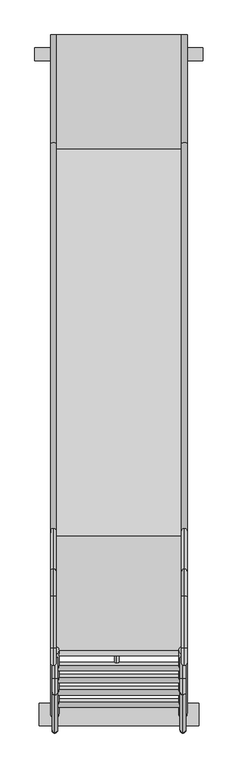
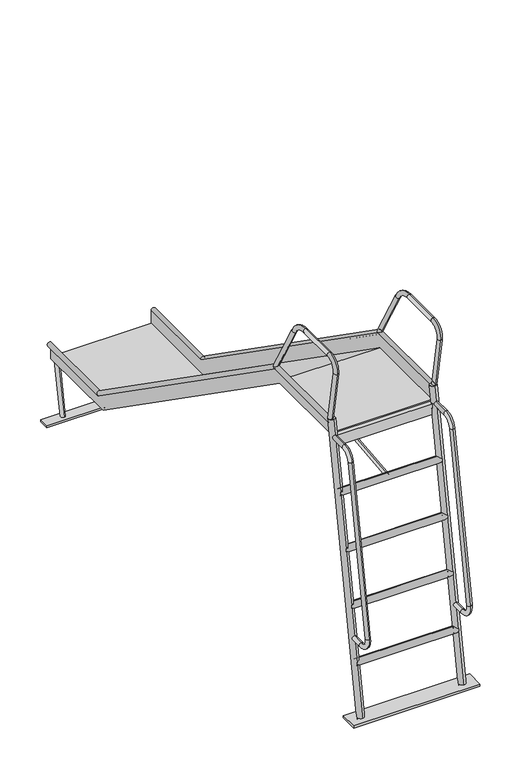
"""IFC4 building model written with IfcOpenShell, lengths in millimetres: furniture geometry, Escorregador_-_Slide_18603 : Escorregador_-_Slide_18603."""

from ifc_helpers import new_model, si_unit, point, frame, frame_2d, origin, origin_with_axes, place, context, project, spatial, polyline, circle_curve, ellipse_curve, trimmed, segment, composite_curve, outline, extrude, source, transform, mapped, element, save
from ifc_brep_helpers import plane_surface, cylinder_surface, revolved_surface, advanced_brep


def furniture_a3808f5e(model_context):
    return source(origin(), model_context, "Body", "SolidModel", [
        extrude(outline(composite_curve([segment(trimmed(circle_curve(frame_2d((-7.5, 0.0)), 7.5), [point((-7.5, -7.5))], [point((-7.5, 7.5))], False, "CARTESIAN"), True, "CONTINUOUS"), segment(trimmed(circle_curve(frame_2d((-7.5, 0.0)), 7.5), [point((-7.5, 7.5))], [point((-7.5, -7.5))], False, "CARTESIAN"), True, "CONTINUOUS")], self_intersect=False)), frame((0.0, -997.5703978, 960.0), z_axis=(0.0, 0.9945218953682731, 0.10452846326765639), x_axis=(1.0, 0.0, 0.0)), (0.0, 0.0, 1.0), 692.6117788),
        extrude(outline(composite_curve([segment(trimmed(circle_curve(frame_2d((210.0, 0.0)), 10.0), [point((210.0, 10.0000001))], [point((210.0, -10.0))], False, "CARTESIAN"), True, "CONTINUOUS"), segment(trimmed(circle_curve(frame_2d((210.0, 0.0)), 10.0), [point((210.0, -10.0))], [point((210.0, 10.0000001))], False, "CARTESIAN"), True, "CONTINUOUS")], self_intersect=False)), frame((0.0, 1148.1648069, 10.0), z_axis=(0.0, 0.19080899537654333, 0.9816271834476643), x_axis=(-1.0, 0.0, 0.0)), (0.0, 0.0, 1.0), 239.3984233),
        extrude(outline(composite_curve([segment(trimmed(circle_curve(frame_2d((210.0, 0.0)), 10.0), [point((210.0, -10.0000001))], [point((210.0, 10.0))], False, "CARTESIAN"), True, "CONTINUOUS"), segment(trimmed(circle_curve(frame_2d((210.0, 0.0)), 10.0), [point((210.0, 10.0))], [point((210.0, -10.0000001))], False, "CARTESIAN"), True, "CONTINUOUS")], self_intersect=False)), frame((0.0, 1148.1648069, 10.0), z_axis=(0.0, 0.19080899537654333, 0.9816271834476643), x_axis=(1.0, 0.0, 0.0)), (0.0, 0.0, 1.0), 239.3984233),
        extrude(outline(polyline([(295.0, 1124.5783164), (-295.0, 1124.5783164), (-295.0, 1171.7512974), (295.0, 1171.7512974), (295.0, 1124.5783164)])), origin_with_axes(), (0.0, 0.0, 1.0), 10.0),
        advanced_brep(
        [(-230.0, -950.9590826, 1272.2635182), (-230.0, -931.2629275, 1275.7364818), (-230.0, -992.7062439, 1509.0234352), (-230.0, -973.0100888, 1512.4963988), (-230.0, -933.6177787, 1579.4423259), (-230.0, -933.6177787, 1559.4423259), (-230.0, -751.6131369, 1579.4423259), (-230.0, -751.6131369, 1559.4423259), (-230.0, -655.8018513, 1523.4811783), (-230.0, -673.2220851, 1513.6559324), (-230.0, -512.2217657, 1268.9126229), (-230.0, -529.6419994, 1259.0873771)],
        [
            (0, 1, circle_curve(frame((-230.0, -941.1110051, 1274.0), z_axis=(0.0, 0.1736481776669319, -0.9848077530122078), x_axis=(0.0, 0.9848077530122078, 0.1736481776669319)), 10.0)),
            (1, 0, circle_curve(frame((-230.0, -941.1110051, 1274.0), z_axis=(0.0, 0.1736481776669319, -0.9848077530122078), x_axis=(0.0, 0.9848077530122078, 0.1736481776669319)), 10.0)),
            (0, 2),
            (2, 3, circle_curve(frame((-230.0, -982.8581664, 1510.759917), z_axis=(0.0, 0.1736481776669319, -0.9848077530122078), x_axis=(0.0, 0.9848077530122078, 0.1736481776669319)), 10.0)),
            (3, 1),
            (3, 2, circle_curve(frame((-230.0, -982.8581664, 1510.759917), z_axis=(0.0, 0.1736481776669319, -0.9848077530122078), x_axis=(0.0, 0.9848077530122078, 0.1736481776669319)), 10.0)),
            (4, 5, circle_curve(frame((-230.0, -933.6177787, 1569.4423259), z_axis=(0.0, -0.9999999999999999, 0.0), x_axis=(0.0, 0.0, -0.9999999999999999)), 10.0)),
            (5, 3, circle_curve(frame((-230.0, -933.6177787, 1519.4423259), z_axis=(1.0, 0.0, 0.0), x_axis=(0.0, -0.9848077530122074, -0.17364817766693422)), 40.0)),
            (2, 4, circle_curve(frame((-230.0, -933.6177787, 1519.4423259), z_axis=(-1.0, 0.0, 0.0), x_axis=(0.0, -0.9848077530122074, -0.17364817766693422)), 60.0)),
            (5, 4, circle_curve(frame((-230.0, -933.6177787, 1569.4423259), z_axis=(0.0, -1.0, 0.0), x_axis=(0.0, 0.0, -1.0)), 10.0)),
            (4, 6),
            (6, 7, circle_curve(frame((-230.0, -751.6131369, 1569.4423259), z_axis=(0.0, -1.0, 0.0), x_axis=(0.0, 0.0, -1.0)), 10.0)),
            (7, 5),
            (7, 6, circle_curve(frame((-230.0, -751.6131369, 1569.4423259), z_axis=(0.0, -1.0, 0.0), x_axis=(0.0, 0.0, -1.0)), 10.0)),
            (8, 9, circle_curve(frame((-230.0, -664.5119682, 1518.5685553), z_axis=(0.0, -0.49126229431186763, 0.8710116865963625), x_axis=(0.0, -0.8710116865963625, -0.49126229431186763)), 10.0)),
            (9, 7, circle_curve(frame((-230.0, -751.6131369, 1469.4423259), z_axis=(1.0, 0.0, 0.0), x_axis=(0.0, 0.0, 1.0)), 90.0)),
            (6, 8, circle_curve(frame((-230.0, -751.6131369, 1469.4423259), z_axis=(-1.0, 0.0, 0.0), x_axis=(0.0, 0.0, 1.0)), 110.0)),
            (9, 8, circle_curve(frame((-230.0, -664.5119682, 1518.5685553), z_axis=(0.0, -0.49126229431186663, 0.8710116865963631), x_axis=(0.0, -0.8710116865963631, -0.49126229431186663)), 10.0)),
            (10, 11, circle_curve(frame((-230.0, -520.9318826, 1264.0), z_axis=(0.0, 0.4912622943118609, -0.8710116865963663), x_axis=(0.0, -0.8710116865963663, -0.4912622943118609)), 10.0)),
            (11, 10, circle_curve(frame((-230.0, -520.9318826, 1264.0), z_axis=(0.0, 0.4912622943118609, -0.8710116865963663), x_axis=(0.0, -0.8710116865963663, -0.4912622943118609)), 10.0)),
            (8, 10),
            (11, 9),
        ],
        [
            plane_surface(frame((0.0, -941.1110051, 1274.0), z_axis=(0.0, 0.1736481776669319, -0.9848077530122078), x_axis=(-1.0, 0.0, 0.0))),
            cylinder_surface(frame((-230.0, -941.1110051, 1274.0), z_axis=(0.0, 0.1736481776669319, -0.9848077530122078), x_axis=(0.0, 0.9848077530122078, 0.1736481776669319)), 10.0),
            revolved_surface(trimmed(ellipse_curve(frame((-230.0, -982.8581664, 1510.759917), z_axis=(0.0, -0.17364817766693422, 0.9848077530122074), x_axis=(0.0, 0.9848077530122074, 0.17364817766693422)), 10.0, 10.0), [point((-230.0, -973.0100888, 1512.4963988))], [point((-230.0, -992.7062439, 1509.0234352))], True, "CARTESIAN"), (0.0, -933.6177787, 1519.4423259), (1.0, 0.0, 0.0)),
            revolved_surface(trimmed(ellipse_curve(frame((-230.0, -982.8581664, 1510.759917), z_axis=(0.0, -0.17364817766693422, 0.9848077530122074), x_axis=(0.0, 0.9848077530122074, 0.17364817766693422)), 10.0, 10.0), [point((-230.0, -992.7062439, 1509.0234352))], [point((-230.0, -973.0100888, 1512.4963988))], True, "CARTESIAN"), (0.0, -933.6177787, 1519.4423259), (1.0, 0.0, 0.0)),
            cylinder_surface(frame((-230.0, -933.6177787, 1569.4423259), z_axis=(0.0, -1.0, 0.0), x_axis=(0.0, 0.0, -1.0)), 10.0),
            revolved_surface(trimmed(ellipse_curve(frame((-230.0, -751.6131369, 1569.4423259), z_axis=(0.0, 1.0, 0.0), x_axis=(0.0, 0.0, -1.0)), 10.0, 10.0), [point((-230.0, -751.6131369, 1559.4423259))], [point((-230.0, -751.6131369, 1579.4423259))], True, "CARTESIAN"), (0.0, -751.6131369, 1469.4423259), (1.0, 0.0, 0.0)),
            revolved_surface(trimmed(ellipse_curve(frame((-230.0, -751.6131369, 1569.4423259), z_axis=(0.0, 1.0, 0.0), x_axis=(0.0, 0.0, -1.0)), 10.0, 10.0), [point((-230.0, -751.6131369, 1579.4423259))], [point((-230.0, -751.6131369, 1559.4423259))], True, "CARTESIAN"), (0.0, -751.6131369, 1469.4423259), (1.0, 0.0, 0.0)),
            plane_surface(frame((0.0, -520.9318826, 1264.0), z_axis=(0.0, 0.49126229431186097, -0.8710116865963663), x_axis=(-1.0, 0.0, 0.0))),
            cylinder_surface(frame((-230.0, -664.5119682, 1518.5685553), z_axis=(0.0, -0.4912622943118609, 0.8710116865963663), x_axis=(0.0, -0.8710116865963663, -0.4912622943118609)), 10.0),
        ],
        [
            (0, [[1, 2]]),
            (1, [[3, 4, 5, -1]]),
            (1, [[-5, 6, -3, -2]]),
            (2, [[7, 8, -4, 9]]),
            (3, [[10, -9, -6, -8]]),
            (4, [[11, 12, 13, -7]]),
            (4, [[-13, 14, -11, -10]]),
            (5, [[15, 16, -12, 17]]),
            (6, [[18, -17, -14, -16]]),
            (7, [[19, 20]]),
            (8, [[21, -20, 22, -15]]),
            (8, [[-22, -19, -21, -18]]),
        ],
    ),
        advanced_brep(
        [(230.0, -950.9590826, 1272.2635182), (230.0, -931.2629275, 1275.7364818), (230.0, -973.0100888, 1512.4963988), (230.0, -992.7062439, 1509.0234352), (230.0, -933.6177787, 1559.4423259), (230.0, -933.6177787, 1579.4423259), (230.0, -751.6131369, 1559.4423259), (230.0, -751.6131369, 1579.4423259), (230.0, -673.2220851, 1513.6559324), (230.0, -655.8018513, 1523.4811783), (230.0, -512.2217657, 1268.9126229), (230.0, -529.6419994, 1259.0873771)],
        [
            (0, 1, circle_curve(frame((230.0, -941.1110051, 1274.0), z_axis=(0.0, 0.1736481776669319, -0.9848077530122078), x_axis=(0.0, 0.9848077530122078, 0.1736481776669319)), 10.0)),
            (1, 0, circle_curve(frame((230.0, -941.1110051, 1274.0), z_axis=(0.0, 0.1736481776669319, -0.9848077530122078), x_axis=(0.0, 0.9848077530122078, 0.1736481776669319)), 10.0)),
            (1, 2),
            (2, 3, circle_curve(frame((230.0, -982.8581664, 1510.759917), z_axis=(0.0, 0.1736481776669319, -0.9848077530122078), x_axis=(0.0, 0.9848077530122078, 0.1736481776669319)), 10.0)),
            (3, 0),
            (3, 2, circle_curve(frame((230.0, -982.8581664, 1510.759917), z_axis=(0.0, 0.1736481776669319, -0.9848077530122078), x_axis=(0.0, 0.9848077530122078, 0.1736481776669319)), 10.0)),
            (4, 5, circle_curve(frame((230.0, -933.6177787, 1569.4423259), z_axis=(0.0, -1.0, 0.0), x_axis=(0.0, 0.0, -1.0)), 10.0)),
            (5, 3, circle_curve(frame((230.0, -933.6177787, 1519.4423259), z_axis=(1.0, 0.0, 0.0), x_axis=(0.0, -0.9848077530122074, -0.17364817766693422)), 60.0)),
            (2, 4, circle_curve(frame((230.0, -933.6177787, 1519.4423259), z_axis=(-1.0, 0.0, 0.0), x_axis=(0.0, -0.9848077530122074, -0.17364817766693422)), 40.0)),
            (5, 4, circle_curve(frame((230.0, -933.6177787, 1569.4423259), z_axis=(0.0, -0.9999999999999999, 0.0), x_axis=(0.0, 0.0, -0.9999999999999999)), 10.0)),
            (4, 6),
            (6, 7, circle_curve(frame((230.0, -751.6131369, 1569.4423259), z_axis=(0.0, -1.0, 0.0), x_axis=(0.0, 0.0, -1.0)), 10.0)),
            (7, 5),
            (7, 6, circle_curve(frame((230.0, -751.6131369, 1569.4423259), z_axis=(0.0, -1.0, 0.0), x_axis=(0.0, 0.0, -1.0)), 10.0)),
            (8, 9, circle_curve(frame((230.0, -664.5119682, 1518.5685553), z_axis=(0.0, -0.49126229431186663, 0.8710116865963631), x_axis=(0.0, -0.8710116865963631, -0.49126229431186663)), 10.0)),
            (9, 7, circle_curve(frame((230.0, -751.6131369, 1469.4423259), z_axis=(1.0, 0.0, 0.0), x_axis=(0.0, 0.0, 1.0)), 110.0)),
            (6, 8, circle_curve(frame((230.0, -751.6131369, 1469.4423259), z_axis=(-1.0, 0.0, 0.0), x_axis=(0.0, 0.0, 1.0)), 90.0)),
            (9, 8, circle_curve(frame((230.0, -664.5119682, 1518.5685553), z_axis=(0.0, -0.49126229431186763, 0.8710116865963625), x_axis=(0.0, -0.8710116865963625, -0.49126229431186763)), 10.0)),
            (10, 11, circle_curve(frame((230.0, -520.9318826, 1264.0), z_axis=(0.0, 0.4912622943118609, -0.8710116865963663), x_axis=(0.0, -0.8710116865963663, -0.4912622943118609)), 10.0)),
            (11, 10, circle_curve(frame((230.0, -520.9318826, 1264.0), z_axis=(0.0, 0.4912622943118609, -0.8710116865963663), x_axis=(0.0, -0.8710116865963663, -0.4912622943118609)), 10.0)),
            (8, 11),
            (10, 9),
        ],
        [
            plane_surface(frame((0.0, -941.1110051, 1274.0), z_axis=(0.0, 0.1736481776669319, -0.9848077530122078), x_axis=(1.0, 0.0, 0.0))),
            cylinder_surface(frame((230.0, -941.1110051, 1274.0), z_axis=(0.0, 0.1736481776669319, -0.9848077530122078), x_axis=(0.0, 0.9848077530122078, 0.1736481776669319)), 10.0),
            revolved_surface(trimmed(ellipse_curve(frame((230.0, -982.8581664, 1510.759917), z_axis=(0.0, -0.17364817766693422, 0.9848077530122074), x_axis=(0.0, 0.9848077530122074, 0.17364817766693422)), 10.0, 10.0), [point((230.0, -992.7062439, 1509.0234352))], [point((230.0, -973.0100888, 1512.4963988))], True, "CARTESIAN"), (0.0, -933.6177787, 1519.4423259), (1.0, 0.0, 0.0)),
            revolved_surface(trimmed(ellipse_curve(frame((230.0, -982.8581664, 1510.759917), z_axis=(0.0, -0.17364817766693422, 0.9848077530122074), x_axis=(0.0, 0.9848077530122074, 0.17364817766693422)), 10.0, 10.0), [point((230.0, -973.0100888, 1512.4963988))], [point((230.0, -992.7062439, 1509.0234352))], True, "CARTESIAN"), (0.0, -933.6177787, 1519.4423259), (1.0, 0.0, 0.0)),
            cylinder_surface(frame((230.0, -933.6177787, 1569.4423259), z_axis=(0.0, -1.0, 0.0), x_axis=(0.0, 0.0, -1.0)), 10.0),
            revolved_surface(trimmed(ellipse_curve(frame((230.0, -751.6131369, 1569.4423259), z_axis=(0.0, 1.0, 0.0), x_axis=(0.0, 0.0, -1.0)), 10.0, 10.0), [point((230.0, -751.6131369, 1579.4423259))], [point((230.0, -751.6131369, 1559.4423259))], True, "CARTESIAN"), (0.0, -751.6131369, 1469.4423259), (1.0, 0.0, 0.0)),
            revolved_surface(trimmed(ellipse_curve(frame((230.0, -751.6131369, 1569.4423259), z_axis=(0.0, 1.0, 0.0), x_axis=(0.0, 0.0, -1.0)), 10.0, 10.0), [point((230.0, -751.6131369, 1559.4423259))], [point((230.0, -751.6131369, 1579.4423259))], True, "CARTESIAN"), (0.0, -751.6131369, 1469.4423259), (1.0, 0.0, 0.0)),
            plane_surface(frame((0.0, -520.9318826, 1264.0), z_axis=(0.0, 0.49126229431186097, -0.8710116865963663), x_axis=(1.0, 0.0, 0.0))),
            cylinder_surface(frame((230.0, -664.5119682, 1518.5685553), z_axis=(0.0, -0.4912622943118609, 0.8710116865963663), x_axis=(0.0, -0.8710116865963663, -0.4912622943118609)), 10.0),
        ],
        [
            (0, [[1, 2]]),
            (1, [[3, 4, 5, -2]]),
            (1, [[-5, 6, -3, -1]]),
            (2, [[7, 8, -4, 9]]),
            (3, [[10, -9, -6, -8]]),
            (4, [[11, 12, 13, -7]]),
            (4, [[-13, 14, -11, -10]]),
            (5, [[15, 16, -12, 17]]),
            (6, [[18, -17, -14, -16]]),
            (7, [[19, 20]]),
            (8, [[21, -19, 22, -15]]),
            (8, [[-22, -20, -21, -18]]),
        ],
    ),
        extrude(outline(composite_curve([segment(trimmed(circle_curve(frame_2d((-997.4504963, 960.6799953)), 15.0), [point((-994.8457737, 975.4521116))], [point((-1000.055219, 945.907879))], False, "CARTESIAN"), True, "CONTINUOUS"), segment(trimmed(circle_curve(frame_2d((-997.4504963, 960.6799953)), 15.0), [point((-1000.055219, 945.907879))], [point((-994.8457737, 975.4521116))], False, "CARTESIAN"), True, "CONTINUOUS")], self_intersect=False)), frame((-225.0, 0.0, 0.0), z_axis=(1.0, 0.0, 0.0), x_axis=(0.0, 1.0, 0.0)), (0.0, 0.0, 1.0), 450.0),
        extrude(outline(composite_curve([segment(trimmed(circle_curve(frame_2d((-1039.7689717, 720.6799953)), 15.0), [point((-1037.164249, 735.4521116))], [point((-1042.3736944, 705.907879))], False, "CARTESIAN"), True, "CONTINUOUS"), segment(trimmed(circle_curve(frame_2d((-1039.7689717, 720.6799953)), 15.0), [point((-1042.3736944, 705.907879))], [point((-1037.164249, 735.4521116))], False, "CARTESIAN"), True, "CONTINUOUS")], self_intersect=False)), frame((-225.0, 0.0, 0.0), z_axis=(1.0, 0.0, 0.0), x_axis=(0.0, 1.0, 0.0)), (0.0, 0.0, 1.0), 450.0),
        extrude(outline(composite_curve([segment(trimmed(circle_curve(frame_2d((-1082.0874471, 480.6799953)), 15.0), [point((-1079.4827244, 495.4521116))], [point((-1084.6921697, 465.907879))], False, "CARTESIAN"), True, "CONTINUOUS"), segment(trimmed(circle_curve(frame_2d((-1082.0874471, 480.6799953)), 15.0), [point((-1084.6921697, 465.907879))], [point((-1079.4827244, 495.4521116))], False, "CARTESIAN"), True, "CONTINUOUS")], self_intersect=False)), frame((-225.0, 0.0, 0.0), z_axis=(1.0, 0.0, 0.0), x_axis=(0.0, 1.0, 0.0)), (0.0, 0.0, 1.0), 450.0),
        extrude(outline(composite_curve([segment(trimmed(circle_curve(frame_2d((-1124.4059224, 240.6799953)), 15.0), [point((-1121.8011998, 255.4521116))], [point((-1127.0106451, 225.907879))], False, "CARTESIAN"), True, "CONTINUOUS"), segment(trimmed(circle_curve(frame_2d((-1124.4059224, 240.6799953)), 15.0), [point((-1127.0106451, 225.907879))], [point((-1121.8011998, 255.4521116))], False, "CARTESIAN"), True, "CONTINUOUS")], self_intersect=False)), frame((-225.0, 0.0, 0.0), z_axis=(1.0, 0.0, 0.0), x_axis=(0.0, 1.0, 0.0)), (0.0, 0.0, 1.0), 450.0),
        advanced_brep(
        [(-225.0, -960.0508378, 1190.0), (-225.0, -960.0508378, 1210.0), (-225.0, -1038.1017893, 1190.0), (-225.0, -1038.1017893, 1210.0), (-225.0, -1077.4931316, 1156.9514134), (-225.0, -1097.1888028, 1160.42712), (-225.0, -1209.8460728, 406.9514134), (-225.0, -1229.541744, 410.42712), (-225.0, -1170.4547305, 360.0), (-225.0, -1170.4547305, 340.0), (-225.0, -1110.0508378, 360.0), (-225.0, -1110.0508378, 340.0)],
        [
            (0, 1, circle_curve(frame((-225.0, -960.0508378, 1200.0), z_axis=(0.0, 1.0, 0.0), x_axis=(0.0, 0.0, 1.0)), 10.0)),
            (1, 0, circle_curve(frame((-225.0, -960.0508378, 1200.0), z_axis=(0.0, 1.0, 0.0), x_axis=(0.0, 0.0, 1.0)), 10.0)),
            (0, 2),
            (2, 3, circle_curve(frame((-225.0, -1038.1017893, 1200.0), z_axis=(0.0, 1.0, 0.0), x_axis=(0.0, 0.0, 1.0)), 10.0)),
            (3, 1),
            (3, 2, circle_curve(frame((-225.0, -1038.1017893, 1200.0), z_axis=(0.0, 1.0, 0.0), x_axis=(0.0, 0.0, 1.0)), 10.0)),
            (4, 5, circle_curve(frame((-225.0, -1087.3409672, 1158.6892667), z_axis=(0.0, 0.17378533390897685, 0.9847835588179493), x_axis=(0.0, -0.9847835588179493, 0.17378533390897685)), 10.0)),
            (5, 3, circle_curve(frame((-225.0, -1038.1017893, 1150.0), z_axis=(-1.0, 0.0, 0.0), x_axis=(0.0, 0.0, 1.0)), 60.0)),
            (2, 4, circle_curve(frame((-225.0, -1038.1017893, 1150.0), z_axis=(1.0, 0.0, 0.0), x_axis=(0.0, 0.0, 1.0)), 40.0)),
            (5, 4, circle_curve(frame((-225.0, -1087.3409672, 1158.6892667), z_axis=(0.0, 0.1737853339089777, 0.9847835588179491), x_axis=(0.0, -0.9847835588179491, 0.1737853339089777)), 10.0)),
            (4, 6),
            (6, 7, circle_curve(frame((-225.0, -1219.6939084, 408.6892667), z_axis=(0.0, 0.17378533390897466, 0.9847835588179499), x_axis=(0.0, -0.9847835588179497, 0.17378533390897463)), 10.0)),
            (7, 5),
            (7, 6, circle_curve(frame((-225.0, -1219.6939084, 408.6892667), z_axis=(0.0, 0.17378533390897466, 0.9847835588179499), x_axis=(0.0, -0.9847835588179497, 0.17378533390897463)), 10.0)),
            (8, 9, circle_curve(frame((-225.0, -1170.4547305, 350.0), z_axis=(0.0, -1.0, 0.0), x_axis=(0.0, 0.0, -1.0)), 10.0)),
            (9, 7, circle_curve(frame((-225.0, -1170.4547305, 400.0), z_axis=(-1.0, 0.0, 0.0), x_axis=(0.0, -0.9847835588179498, 0.17378533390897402)), 60.0)),
            (6, 8, circle_curve(frame((-225.0, -1170.4547305, 400.0), z_axis=(1.0, 0.0, 0.0), x_axis=(0.0, -0.9847835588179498, 0.17378533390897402)), 40.0)),
            (9, 8, circle_curve(frame((-225.0, -1170.4547305, 350.0), z_axis=(0.0, -1.0, 0.0), x_axis=(0.0, 0.0, -1.0)), 10.0)),
            (10, 11, circle_curve(frame((-225.0, -1110.0508378, 350.0), z_axis=(0.0, 1.0, 0.0), x_axis=(0.0, 0.0, -1.0)), 10.0)),
            (11, 10, circle_curve(frame((-225.0, -1110.0508378, 350.0), z_axis=(0.0, 1.0, 0.0), x_axis=(0.0, 0.0, -1.0)), 10.0)),
            (8, 10),
            (11, 9),
        ],
        [
            plane_surface(frame((0.0, -960.0508378, 1200.0), z_axis=(0.0, 1.0, 0.0), x_axis=(-1.0, 0.0, 0.0))),
            cylinder_surface(frame((-225.0, -960.0508378, 1200.0), z_axis=(0.0, 1.0, 0.0), x_axis=(0.0, 0.0, 1.0)), 10.0),
            revolved_surface(trimmed(ellipse_curve(frame((-225.0, -1038.1017893, 1200.0), z_axis=(0.0, -1.0, 0.0), x_axis=(0.0, 0.0, 1.0)), 10.0, 10.0), [point((-225.0, -1038.1017893, 1210.0))], [point((-225.0, -1038.1017893, 1190.0))], True, "CARTESIAN"), (0.0, -1038.1017893, 1150.0), (-1.0, 0.0, 0.0)),
            revolved_surface(trimmed(ellipse_curve(frame((-225.0, -1038.1017893, 1200.0), z_axis=(0.0, -1.0, 0.0), x_axis=(0.0, 0.0, 1.0)), 10.0, 10.0), [point((-225.0, -1038.1017893, 1190.0))], [point((-225.0, -1038.1017893, 1210.0))], True, "CARTESIAN"), (0.0, -1038.1017893, 1150.0), (-1.0, 0.0, 0.0)),
            cylinder_surface(frame((-225.0, -1087.3409672, 1158.6892667), z_axis=(0.0, 0.17378533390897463, 0.9847835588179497), x_axis=(0.0, -0.9847835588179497, 0.17378533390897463)), 10.0),
            revolved_surface(trimmed(ellipse_curve(frame((-225.0, -1219.6939084, 408.6892667), z_axis=(0.0, -0.173785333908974, -0.9847835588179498), x_axis=(0.0, -0.9847835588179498, 0.173785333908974)), 10.0, 10.0), [point((-225.0, -1229.541744, 410.42712))], [point((-225.0, -1209.8460728, 406.9514134))], True, "CARTESIAN"), (0.0, -1170.4547305, 400.0), (-1.0, 0.0, 0.0)),
            revolved_surface(trimmed(ellipse_curve(frame((-225.0, -1219.6939084, 408.6892667), z_axis=(0.0, -0.173785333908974, -0.9847835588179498), x_axis=(0.0, -0.9847835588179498, 0.173785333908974)), 10.0, 10.0), [point((-225.0, -1209.8460728, 406.9514134))], [point((-225.0, -1229.541744, 410.42712))], True, "CARTESIAN"), (0.0, -1170.4547305, 400.0), (-1.0, 0.0, 0.0)),
            plane_surface(frame((0.0, -1110.0508378, 350.0), z_axis=(0.0, 1.0, 0.0), x_axis=(-1.0, 0.0, 0.0))),
            cylinder_surface(frame((-225.0, -1170.4547305, 350.0), z_axis=(0.0, -1.0, 0.0), x_axis=(0.0, 0.0, -1.0)), 10.0),
        ],
        [
            (0, [[1, 2]]),
            (1, [[3, 4, 5, -1]]),
            (1, [[-5, 6, -3, -2]]),
            (2, [[7, 8, -4, 9]]),
            (3, [[10, -9, -6, -8]]),
            (4, [[11, 12, 13, -7]]),
            (4, [[-13, 14, -11, -10]]),
            (5, [[15, 16, -12, 17]]),
            (6, [[18, -17, -14, -16]]),
            (7, [[19, 20]]),
            (8, [[21, -20, 22, -15]]),
            (8, [[-22, -19, -21, -18]]),
        ],
    ),
        advanced_brep(
        [(225.0, -960.0508378, 1190.0), (225.0, -960.0508378, 1210.0), (225.0, -1038.1017893, 1210.0), (225.0, -1038.1017893, 1190.0), (225.0, -1097.1888028, 1160.42712), (225.0, -1077.4931316, 1156.9514134), (225.0, -1229.541744, 410.42712), (225.0, -1209.8460728, 406.9514134), (225.0, -1170.4547305, 340.0), (225.0, -1170.4547305, 360.0), (225.0, -1110.0508378, 360.0), (225.0, -1110.0508378, 340.0)],
        [
            (0, 1, circle_curve(frame((225.0, -960.0508378, 1200.0), z_axis=(0.0, 1.0, 0.0), x_axis=(0.0, 0.0, 1.0)), 10.0)),
            (1, 0, circle_curve(frame((225.0, -960.0508378, 1200.0), z_axis=(0.0, 1.0, 0.0), x_axis=(0.0, 0.0, 1.0)), 10.0)),
            (1, 2),
            (2, 3, circle_curve(frame((225.0, -1038.1017893, 1200.0), z_axis=(0.0, 1.0, 0.0), x_axis=(0.0, 0.0, 1.0)), 10.0)),
            (3, 0),
            (3, 2, circle_curve(frame((225.0, -1038.1017893, 1200.0), z_axis=(0.0, 1.0, 0.0), x_axis=(0.0, 0.0, 1.0)), 10.0)),
            (4, 5, circle_curve(frame((225.0, -1087.3409672, 1158.6892667), z_axis=(0.0, 0.1737853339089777, 0.9847835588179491), x_axis=(0.0, -0.9847835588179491, 0.1737853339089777)), 10.0)),
            (5, 3, circle_curve(frame((225.0, -1038.1017893, 1150.0), z_axis=(-1.0, 0.0, 0.0), x_axis=(0.0, 0.0, 1.0)), 40.0)),
            (2, 4, circle_curve(frame((225.0, -1038.1017893, 1150.0), z_axis=(1.0, 0.0, 0.0), x_axis=(0.0, 0.0, 1.0)), 60.0)),
            (5, 4, circle_curve(frame((225.0, -1087.3409672, 1158.6892667), z_axis=(0.0, 0.17378533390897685, 0.9847835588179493), x_axis=(0.0, -0.9847835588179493, 0.17378533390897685)), 10.0)),
            (4, 6),
            (6, 7, circle_curve(frame((225.0, -1219.6939084, 408.6892667), z_axis=(0.0, 0.1737853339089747, 0.9847835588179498), x_axis=(0.0, -0.9847835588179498, 0.1737853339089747)), 10.0)),
            (7, 5),
            (7, 6, circle_curve(frame((225.0, -1219.6939084, 408.6892667), z_axis=(0.0, 0.1737853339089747, 0.9847835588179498), x_axis=(0.0, -0.9847835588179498, 0.1737853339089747)), 10.0)),
            (8, 9, circle_curve(frame((225.0, -1170.4547305, 350.0), z_axis=(0.0, -1.0, 0.0), x_axis=(0.0, 0.0, -1.0)), 10.0)),
            (9, 7, circle_curve(frame((225.0, -1170.4547305, 400.0), z_axis=(-1.0, 0.0, 0.0), x_axis=(0.0, -0.9847835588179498, 0.17378533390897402)), 40.0)),
            (6, 8, circle_curve(frame((225.0, -1170.4547305, 400.0), z_axis=(1.0, 0.0, 0.0), x_axis=(0.0, -0.9847835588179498, 0.17378533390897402)), 60.0)),
            (9, 8, circle_curve(frame((225.0, -1170.4547305, 350.0), z_axis=(0.0, -1.0, 0.0), x_axis=(0.0, 0.0, -1.0)), 10.0)),
            (10, 11, circle_curve(frame((225.0, -1110.0508378, 350.0), z_axis=(0.0, 1.0, 0.0), x_axis=(0.0, 0.0, -1.0)), 10.0)),
            (11, 10, circle_curve(frame((225.0, -1110.0508378, 350.0), z_axis=(0.0, 1.0, 0.0), x_axis=(0.0, 0.0, -1.0)), 10.0)),
            (8, 11),
            (10, 9),
        ],
        [
            plane_surface(frame((0.0, -960.0508378, 1200.0), z_axis=(0.0, 1.0, 0.0), x_axis=(1.0, 0.0, 0.0))),
            cylinder_surface(frame((225.0, -960.0508378, 1200.0), z_axis=(0.0, 1.0, 0.0), x_axis=(0.0, 0.0, 1.0)), 10.0),
            revolved_surface(trimmed(ellipse_curve(frame((225.0, -1038.1017893, 1200.0), z_axis=(0.0, -1.0, 0.0), x_axis=(0.0, 0.0, 1.0)), 10.0, 10.0), [point((225.0, -1038.1017893, 1190.0))], [point((225.0, -1038.1017893, 1210.0))], True, "CARTESIAN"), (0.0, -1038.1017893, 1150.0), (-1.0, 0.0, 0.0)),
            revolved_surface(trimmed(ellipse_curve(frame((225.0, -1038.1017893, 1200.0), z_axis=(0.0, -1.0, 0.0), x_axis=(0.0, 0.0, 1.0)), 10.0, 10.0), [point((225.0, -1038.1017893, 1210.0))], [point((225.0, -1038.1017893, 1190.0))], True, "CARTESIAN"), (0.0, -1038.1017893, 1150.0), (-1.0, 0.0, 0.0)),
            cylinder_surface(frame((225.0, -1087.3409672, 1158.6892667), z_axis=(0.0, 0.1737853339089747, 0.9847835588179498), x_axis=(0.0, -0.9847835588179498, 0.1737853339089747)), 10.0),
            revolved_surface(trimmed(ellipse_curve(frame((225.0, -1219.6939084, 408.6892667), z_axis=(0.0, -0.17378533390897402, -0.9847835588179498), x_axis=(0.0, -0.9847835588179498, 0.17378533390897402)), 10.0, 10.0), [point((225.0, -1209.8460728, 406.9514134))], [point((225.0, -1229.541744, 410.42712))], True, "CARTESIAN"), (0.0, -1170.4547305, 400.0), (-1.0, 0.0, 0.0)),
            revolved_surface(trimmed(ellipse_curve(frame((225.0, -1219.6939084, 408.6892667), z_axis=(0.0, -0.17378533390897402, -0.9847835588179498), x_axis=(0.0, -0.9847835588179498, 0.17378533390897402)), 10.0, 10.0), [point((225.0, -1229.541744, 410.42712))], [point((225.0, -1209.8460728, 406.9514134))], True, "CARTESIAN"), (0.0, -1170.4547305, 400.0), (-1.0, 0.0, 0.0)),
            plane_surface(frame((0.0, -1110.0508378, 350.0), z_axis=(0.0, 1.0, 0.0), x_axis=(1.0, 0.0, 0.0))),
            cylinder_surface(frame((225.0, -1170.4547305, 350.0), z_axis=(0.0, -1.0, 0.0), x_axis=(0.0, 0.0, -1.0)), 10.0),
        ],
        [
            (0, [[1, 2]]),
            (1, [[3, 4, 5, -2]]),
            (1, [[-5, 6, -3, -1]]),
            (2, [[7, 8, -4, 9]]),
            (3, [[10, -9, -6, -8]]),
            (4, [[11, 12, 13, -7]]),
            (4, [[-13, 14, -11, -10]]),
            (5, [[15, 16, -12, 17]]),
            (6, [[18, -17, -14, -16]]),
            (7, [[19, 20]]),
            (8, [[21, -19, 22, -15]]),
            (8, [[-22, -20, -21, -18]]),
        ],
    ),
        extrude(outline(polyline([(225.0, -941.1110051), (225.0, -960.0508378), (-225.0, -960.0508378), (-225.0, -941.1110051), (225.0, -941.1110051)])), frame((0.0, 0.0, 1150.0), z_axis=(0.0, 0.0, 1.0), x_axis=(1.0, 0.0, 0.0)), (0.0, 0.0, 1.0), 50.0),
        extrude(outline(polyline([(280.0, -1205.0810295), (-280.0, -1205.0810295), (-280.0, -1125.0810295), (280.0, -1125.0810295), (280.0, -1205.0810295)])), origin_with_axes(), (0.0, 0.0, 1.0), 10.0),
        extrude(outline(composite_curve([segment(trimmed(circle_curve(frame_2d((225.0, 0.0)), 15.0), [point((225.0, -15.0))], [point((225.0, 15.0))], False, "CARTESIAN"), True, "CONTINUOUS"), segment(trimmed(circle_curve(frame_2d((225.0, 0.0)), 15.0), [point((225.0, 15.0))], [point((225.0, -15.0))], False, "CARTESIAN"), True, "CONTINUOUS")], self_intersect=False)), frame((0.0, -1165.7515785, 0.0), z_axis=(0.0, 0.17364817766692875, 0.9848077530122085), x_axis=(-1.0, 0.0, 0.0)), (0.0, 0.0, 1.0), 1293.6535035),
        extrude(outline(composite_curve([segment(trimmed(circle_curve(frame_2d((225.0, 0.0)), 15.0), [point((225.0, 15.0))], [point((225.0, -15.0))], False, "CARTESIAN"), True, "CONTINUOUS"), segment(trimmed(circle_curve(frame_2d((225.0, 0.0)), 15.0), [point((225.0, -15.0))], [point((225.0, 15.0))], False, "CARTESIAN"), True, "CONTINUOUS")], self_intersect=False)), frame((0.0, -1165.7515785, 0.0), z_axis=(0.0, 0.17364817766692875, 0.9848077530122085), x_axis=(1.0, 0.0, 0.0)), (0.0, 0.0, 1.0), 1293.6535035),
        advanced_brep(
        [(220.0, 1215.6296013, 255.0), (220.0, 1215.6296013, 314.0), (225.0, 1215.6296013, 305.339746), (225.0, 1215.6296013, 245.0), (-225.0, 1215.6296013, 245.0), (-225.0, 1215.6296013, 305.339746), (-220.0, 1215.6296013, 314.0), (-220.0, 1215.6296013, 255.0), (-220.0, 817.2060953, 255.0), (220.0, 817.2060953, 255.0), (-220.0, 835.8087238, 314.0), (-220.0, -520.9318826, 1264.0), (-220.0, -941.1110051, 1264.0), (-220.0, -941.1110051, 1205.0), (-220.0, -539.5345111, 1205.0), (-225.0, 814.0531074, 245.0), (-225.0, -542.687499, 1195.0), (-225.0, -941.1110051, 1195.0), (-225.0, -941.1110051, 1255.339746), (-225.0, -523.6624502, 1255.339746), (-225.0, 833.0781562, 305.339746), (225.0, 814.0531074, 245.0), (225.0, 833.0781562, 305.339746), (225.0, -523.6624502, 1255.339746), (225.0, -941.1110051, 1255.339746), (225.0, -941.1110051, 1195.0), (225.0, -542.687499, 1195.0), (220.0, -539.5345111, 1205.0), (220.0, -941.1110051, 1205.0), (220.0, -941.1110051, 1264.0), (220.0, -520.9318826, 1264.0), (220.0, 835.8087238, 314.0)],
        [
            (0, 1),
            (1, 2, circle_curve(frame((230.0, 1215.6296013, 314.0), z_axis=(0.0, 1.0, 0.0), x_axis=(1.0, 0.0, 0.0)), 10.0)),
            (2, 3),
            (3, 4),
            (4, 5),
            (5, 6, circle_curve(frame((-230.0, 1215.6296013, 314.0), z_axis=(0.0, 1.0, 0.0), x_axis=(-1.0, 0.0, 0.0)), 10.0)),
            (6, 7),
            (7, 0),
            (7, 8),
            (8, 9),
            (9, 0),
            (6, 10),
            (10, 11),
            (11, 12),
            (12, 13),
            (13, 14),
            (14, 8),
            (4, 15),
            (15, 16),
            (16, 17),
            (17, 18),
            (18, 19),
            (19, 20),
            (20, 5),
            (3, 21),
            (21, 15),
            (2, 22),
            (22, 23),
            (23, 24),
            (24, 25),
            (25, 26),
            (26, 21),
            (9, 27),
            (27, 28),
            (28, 29),
            (29, 30),
            (30, 31),
            (31, 1),
            (14, 27),
            (26, 16),
            (28, 13),
            (12, 18, circle_curve(frame((-230.0, -941.1110051, 1264.0), z_axis=(0.0, -1.0, 0.0), x_axis=(-1.0, 0.0, 0.0)), 10.0)),
            (17, 25),
            (24, 29, circle_curve(frame((230.0, -941.1110051, 1264.0), z_axis=(0.0, -1.0, 0.0), x_axis=(1.0, 0.0, 0.0)), 10.0)),
            (20, 10, ellipse_curve(frame((-230.0, 835.8087238, 314.0), z_axis=(0.0, 0.953716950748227, -0.30070579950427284), x_axis=(0.0, 0.3007057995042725, 0.9537169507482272)), 10.4852913, 10.0)),
            (31, 22, ellipse_curve(frame((230.0, 835.8087238, 314.0), z_axis=(0.0, 0.953716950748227, -0.30070579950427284), x_axis=(0.0, 0.3007057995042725, 0.9537169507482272)), 10.4852913, 10.0)),
            (19, 11, ellipse_curve(frame((-230.0, -520.9318826, 1264.0), z_axis=(0.0, 0.9537169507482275, -0.300705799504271), x_axis=(0.0, -0.30070579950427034, -0.9537169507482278)), 10.4852913, 10.0)),
            (30, 23, ellipse_curve(frame((230.0, -520.9318826, 1264.0), z_axis=(0.0, 0.9537169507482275, -0.300705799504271), x_axis=(0.0, -0.30070579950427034, -0.9537169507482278)), 10.4852913, 10.0)),
        ],
        [
            plane_surface(frame((0.0, 1215.6296013, 250.0), z_axis=(0.0, 1.0, 0.0), x_axis=(1.0, 0.0, 0.0))),
            plane_surface(frame((220.0, 1215.6296013, 255.0), z_axis=(0.0, 0.0, 1.0), x_axis=(0.0, -1.0, 0.0))),
            plane_surface(frame((-220.0, 1215.6296013, 255.0), z_axis=(1.0, 0.0, 0.0), x_axis=(0.0, -1.0, 0.0))),
            plane_surface(frame((-225.0, 1215.6296013, 305.339746), z_axis=(-1.0, 0.0, 0.0), x_axis=(0.0, -1.0, 0.0))),
            plane_surface(frame((-225.0, 1215.6296013, 245.0), z_axis=(0.0, 0.0, -1.0), x_axis=(0.0, -1.0, 0.0))),
            plane_surface(frame((225.0, 1215.6296013, 245.0), z_axis=(1.0, 0.0, 0.0), x_axis=(0.0, -1.0, 0.0))),
            plane_surface(frame((220.0, 1215.6296013, 314.0), z_axis=(-1.0, 0.0, 0.0), x_axis=(0.0, -1.0, 0.0))),
            plane_surface(frame((220.0, 817.2060953, 255.0), z_axis=(0.0, 0.5735764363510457, 0.8191520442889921), x_axis=(0.0, -0.8191520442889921, 0.5735764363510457))),
            plane_surface(frame((-225.0, 814.0531074, 245.0), z_axis=(0.0, -0.5735764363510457, -0.8191520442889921), x_axis=(0.0, -0.8191520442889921, 0.5735764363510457))),
            plane_surface(frame((0.0, -941.1110051, 1200.0), z_axis=(0.0, -1.0, 0.0), x_axis=(1.0, 0.0, 0.0))),
            plane_surface(frame((220.0, -539.5345111, 1205.0), z_axis=(0.0, 0.0, 1.0), x_axis=(0.0, -1.0, 0.0))),
            plane_surface(frame((-225.0, -542.687499, 1195.0), z_axis=(0.0, 0.0, -1.0), x_axis=(0.0, -1.0, 0.0))),
            cylinder_surface(frame((-230.0, 1215.6296013, 314.0), z_axis=(0.0, 1.0, 0.0), x_axis=(-1.0, 0.0, 0.0)), 10.0),
            cylinder_surface(frame((230.0, 1215.6296013, 314.0), z_axis=(0.0, 1.0, 0.0), x_axis=(1.0, 0.0, 0.0)), 10.0),
            cylinder_surface(frame((-230.0, 852.3384933, 302.4257308), z_axis=(0.0, 0.8191520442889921, -0.5735764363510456), x_axis=(-1.0, 0.0, 0.0)), 10.0),
            cylinder_surface(frame((230.0, 852.3384933, 302.4257308), z_axis=(0.0, 0.8191520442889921, -0.5735764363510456), x_axis=(1.0, 0.0, 0.0)), 10.0),
            cylinder_surface(frame((-230.0, -541.1110051, 1264.0), z_axis=(0.0, 1.0, 0.0), x_axis=(-1.0, 0.0, 0.0)), 10.0),
            cylinder_surface(frame((230.0, -541.1110051, 1264.0), z_axis=(0.0, 1.0, 0.0), x_axis=(1.0, 0.0, 0.0)), 10.0),
        ],
        [
            (0, [[1, 2, 3, 4, 5, 6, 7, 8]]),
            (1, [[9, 10, 11, -8]]),
            (2, [[12, 13, 14, 15, 16, 17, -9, -7]]),
            (3, [[18, 19, 20, 21, 22, 23, 24, -5]]),
            (4, [[25, 26, -18, -4]]),
            (5, [[27, 28, 29, 30, 31, 32, -25, -3]]),
            (6, [[-11, 33, 34, 35, 36, 37, 38, -1]]),
            (7, [[-17, 39, -33, -10]]),
            (8, [[-32, 40, -19, -26]]),
            (9, [[41, -15, 42, -21, 43, -30, 44, -35]]),
            (10, [[-16, -41, -34, -39]]),
            (11, [[-31, -43, -20, -40]]),
            (12, [[-24, 45, -12, -6]]),
            (13, [[-38, 46, -27, -2]]),
            (14, [[-23, 47, -13, -45]]),
            (15, [[-37, 48, -28, -46]]),
            (16, [[-22, -42, -14, -47]]),
            (17, [[-36, -44, -29, -48]]),
        ],
    ),
    ])


if __name__ == "__main__":
    model = new_model("IFC4")
    model_context = context("Model", 3, world=origin())
    ifc_project = project(units=[si_unit("LENGTHUNIT", "METRE", prefix="MILLI")], contexts=[model_context])
    site = spatial("IfcSite", under=ifc_project)
    building = spatial("IfcBuilding", under=site)
    placement = place(None, origin())
    furniture_shape = furniture_a3808f5e(model_context)
    element("IfcFurniture", 1, ObjectType="Escorregador_-_Slide_18603 : Escorregador_-_Slide_18603", at=placement, inside=building, context=model_context, shape_type="MappedRepresentation", body=[
        mapped(furniture_shape, transform((0.0, 0.0, 0.0), x_axis=(1.0, 0.0, 0.0), y_axis=(0.0, 1.0, 0.0), z_axis=(0.0, 0.0, 1.0))),
    ])
    save(model, "model.ifc")
